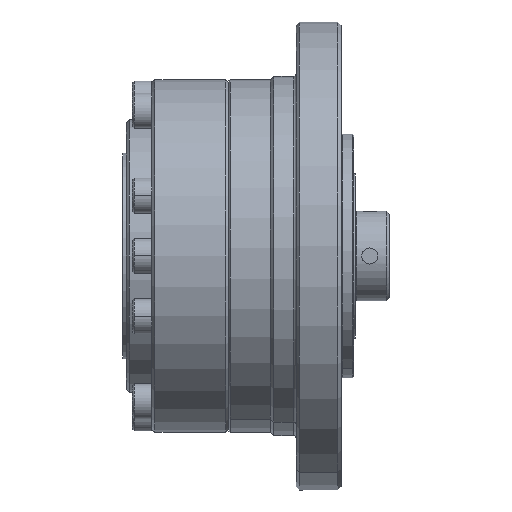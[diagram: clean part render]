
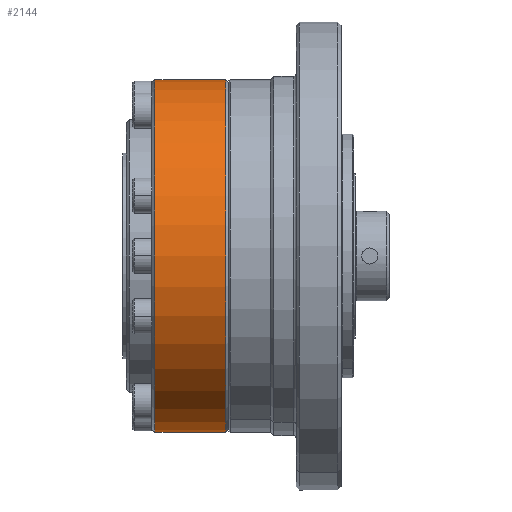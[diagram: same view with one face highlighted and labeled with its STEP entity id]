
A CAD part, front view. The second image highlights one B-rep face of the part: STEP entity #2144.
In plain terms, the highlighted cylindrical face has radius 27.5 mm (diameter 55 mm), a partial arc.
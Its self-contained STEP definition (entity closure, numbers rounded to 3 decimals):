
#39 = AXIS2_PLACEMENT_3D ( 'NONE', #12531, #12458, #12344 ) ;
#520 = EDGE_CURVE ( 'NONE', #11220, #10254, #18063, .T. ) ;
#1009 = DIRECTION ( 'NONE',  ( 0., 0., 1. ) ) ;
#1720 = CARTESIAN_POINT ( 'NONE',  ( -22.208, 0.104, 100.5 ) ) ;
#2004 = AXIS2_PLACEMENT_3D ( 'NONE', #10413, #8996, #9045 ) ;
#2144 = ADVANCED_FACE ( 'NONE', ( #8371 ), #7840, .T. ) ;
#2758 = CARTESIAN_POINT ( 'NONE',  ( -22.708, 0.104, 100.5 ) ) ;
#3916 = EDGE_CURVE ( 'NONE', #11220, #14922, #10495, .T. ) ;
#4440 = VECTOR ( 'NONE', #12974, 1000. ) ;
#5674 = ORIENTED_EDGE ( 'NONE', *, *, #3916, .T. ) ;
#6750 = ORIENTED_EDGE ( 'NONE', *, *, #520, .F. ) ;
#7840 = CYLINDRICAL_SURFACE ( 'NONE', #2004, 27.5 ) ;
#8371 = FACE_OUTER_BOUND ( 'NONE', #9079, .T. ) ;
#8996 = DIRECTION ( 'NONE',  ( -1., 0., 0. ) ) ;
#9045 = DIRECTION ( 'NONE',  ( 0., 0., 1. ) ) ;
#9079 = EDGE_LOOP ( 'NONE', ( #6750, #5674, #9122, #12624 ) ) ;
#9122 = ORIENTED_EDGE ( 'NONE', *, *, #17599, .T. ) ;
#9616 = CIRCLE ( 'NONE', #13744, 27.5 ) ;
#9838 = CARTESIAN_POINT ( 'NONE',  ( -33.708, 0.104, 100.5 ) ) ;
#10254 = VERTEX_POINT ( 'NONE', #21539 ) ;
#10413 = CARTESIAN_POINT ( 'NONE',  ( -22.208, 0.104, 73. ) ) ;
#10452 = VECTOR ( 'NONE', #13602, 1000. ) ;
#10495 = CIRCLE ( 'NONE', #39, 27.5 ) ;
#11214 = DIRECTION ( 'NONE',  ( 1., 0., 0. ) ) ;
#11220 = VERTEX_POINT ( 'NONE', #19311 ) ;
#12344 = DIRECTION ( 'NONE',  ( 0., 0., -1. ) ) ;
#12458 = DIRECTION ( 'NONE',  ( -1., 0., 0. ) ) ;
#12531 = CARTESIAN_POINT ( 'NONE',  ( -22.708, 0.104, 73. ) ) ;
#12624 = ORIENTED_EDGE ( 'NONE', *, *, #18401, .T. ) ;
#12974 = DIRECTION ( 'NONE',  ( -1., 0., 0. ) ) ;
#13558 = CARTESIAN_POINT ( 'NONE',  ( -22.208, 0.104, 45.5 ) ) ;
#13602 = DIRECTION ( 'NONE',  ( -1., 0., 0. ) ) ;
#13744 = AXIS2_PLACEMENT_3D ( 'NONE', #21385, #11214, #1009 ) ;
#14922 = VERTEX_POINT ( 'NONE', #2758 ) ;
#17599 = EDGE_CURVE ( 'NONE', #14922, #20353, #20049, .T. ) ;
#18063 = LINE ( 'NONE', #13558, #4440 ) ;
#18401 = EDGE_CURVE ( 'NONE', #20353, #10254, #9616, .T. ) ;
#19311 = CARTESIAN_POINT ( 'NONE',  ( -22.708, 0.104, 45.5 ) ) ;
#20049 = LINE ( 'NONE', #1720, #10452 ) ;
#20353 = VERTEX_POINT ( 'NONE', #9838 ) ;
#21385 = CARTESIAN_POINT ( 'NONE',  ( -33.708, 0.104, 73. ) ) ;
#21539 = CARTESIAN_POINT ( 'NONE',  ( -33.708, 0.104, 45.5 ) ) ;
